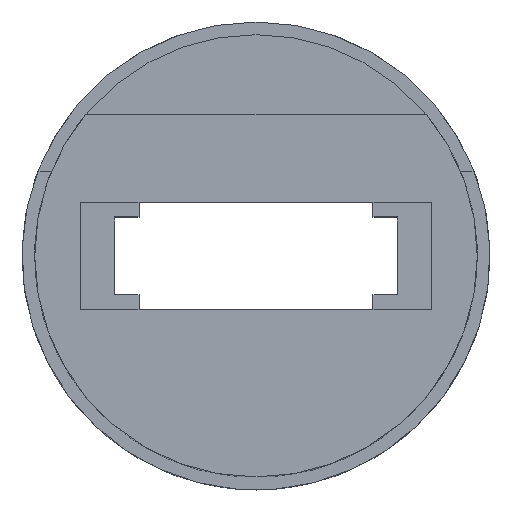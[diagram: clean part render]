
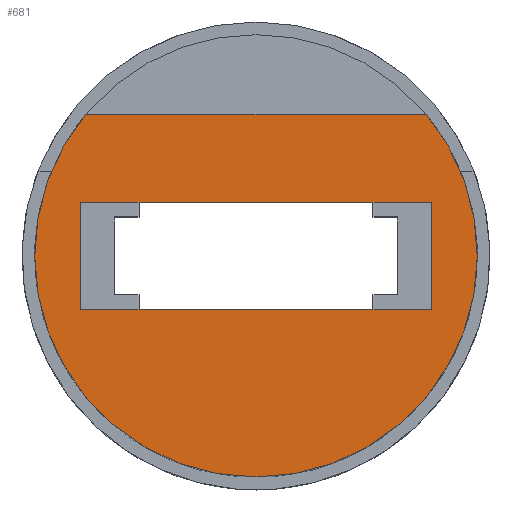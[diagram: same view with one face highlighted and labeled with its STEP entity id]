
A CAD part, top view. The second image highlights one B-rep face of the part: STEP entity #681.
In plain terms, the highlighted planar face has unit normal (0, 0, 1).
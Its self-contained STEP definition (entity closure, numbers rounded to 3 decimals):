
#281 = VERTEX_POINT('',#282);
#282 = CARTESIAN_POINT('',(8.734,7.249,10.));
#290 = EDGE_CURVE('',#281,#291,#293,.T.);
#291 = VERTEX_POINT('',#292);
#292 = CARTESIAN_POINT('',(-8.734,7.249,10.));
#293 = CIRCLE('',#294,11.35);
#294 = AXIS2_PLACEMENT_3D('',#295,#296,#297);
#295 = CARTESIAN_POINT('',(0.,0.,10.));
#296 = DIRECTION('',(0.,0.,-1.));
#297 = DIRECTION('',(0.,1.,0.));
#659 = EDGE_CURVE('',#281,#291,#660,.T.);
#660 = LINE('',#661,#662);
#661 = CARTESIAN_POINT('',(38.446,7.249,10.));
#662 = VECTOR('',#663,1.);
#663 = DIRECTION('',(-1.,0.,0.));
#681 = ADVANCED_FACE('',(#682,#686),#752,.F.);
#682 = FACE_BOUND('',#683,.T.);
#683 = EDGE_LOOP('',(#684,#685));
#684 = ORIENTED_EDGE('',*,*,#290,.F.);
#685 = ORIENTED_EDGE('',*,*,#659,.T.);
#686 = FACE_BOUND('',#687,.T.);
#687 = EDGE_LOOP('',(#688,#698,#706,#714,#722,#730,#738,#746));
#688 = ORIENTED_EDGE('',*,*,#689,.F.);
#689 = EDGE_CURVE('',#690,#692,#694,.T.);
#690 = VERTEX_POINT('',#691);
#691 = CARTESIAN_POINT('',(-6.,-2.75,10.));
#692 = VERTEX_POINT('',#693);
#693 = CARTESIAN_POINT('',(6.,-2.75,10.));
#694 = LINE('',#695,#696);
#695 = CARTESIAN_POINT('',(3.,-2.75,10.));
#696 = VECTOR('',#697,1.);
#697 = DIRECTION('',(1.,0.,0.));
#698 = ORIENTED_EDGE('',*,*,#699,.T.);
#699 = EDGE_CURVE('',#690,#700,#702,.T.);
#700 = VERTEX_POINT('',#701);
#701 = CARTESIAN_POINT('',(-9.,-2.75,10.));
#702 = LINE('',#703,#704);
#703 = CARTESIAN_POINT('',(-4.5,-2.75,10.));
#704 = VECTOR('',#705,1.);
#705 = DIRECTION('',(-1.,0.,0.));
#706 = ORIENTED_EDGE('',*,*,#707,.T.);
#707 = EDGE_CURVE('',#700,#708,#710,.T.);
#708 = VERTEX_POINT('',#709);
#709 = CARTESIAN_POINT('',(-9.,2.75,10.));
#710 = LINE('',#711,#712);
#711 = CARTESIAN_POINT('',(-9.,1.375,10.));
#712 = VECTOR('',#713,1.);
#713 = DIRECTION('',(0.,1.,0.));
#714 = ORIENTED_EDGE('',*,*,#715,.T.);
#715 = EDGE_CURVE('',#708,#716,#718,.T.);
#716 = VERTEX_POINT('',#717);
#717 = CARTESIAN_POINT('',(-6.,2.75,10.));
#718 = LINE('',#719,#720);
#719 = CARTESIAN_POINT('',(4.5,2.75,10.));
#720 = VECTOR('',#721,1.);
#721 = DIRECTION('',(1.,0.,0.));
#722 = ORIENTED_EDGE('',*,*,#723,.F.);
#723 = EDGE_CURVE('',#724,#716,#726,.T.);
#724 = VERTEX_POINT('',#725);
#725 = CARTESIAN_POINT('',(6.,2.75,10.));
#726 = LINE('',#727,#728);
#727 = CARTESIAN_POINT('',(-3.,2.75,10.));
#728 = VECTOR('',#729,1.);
#729 = DIRECTION('',(-1.,0.,0.));
#730 = ORIENTED_EDGE('',*,*,#731,.T.);
#731 = EDGE_CURVE('',#724,#732,#734,.T.);
#732 = VERTEX_POINT('',#733);
#733 = CARTESIAN_POINT('',(9.,2.75,10.));
#734 = LINE('',#735,#736);
#735 = CARTESIAN_POINT('',(4.5,2.75,10.));
#736 = VECTOR('',#737,1.);
#737 = DIRECTION('',(1.,0.,0.));
#738 = ORIENTED_EDGE('',*,*,#739,.T.);
#739 = EDGE_CURVE('',#732,#740,#742,.T.);
#740 = VERTEX_POINT('',#741);
#741 = CARTESIAN_POINT('',(9.,-2.75,10.));
#742 = LINE('',#743,#744);
#743 = CARTESIAN_POINT('',(9.,-1.375,10.));
#744 = VECTOR('',#745,1.);
#745 = DIRECTION('',(0.,-1.,0.));
#746 = ORIENTED_EDGE('',*,*,#747,.T.);
#747 = EDGE_CURVE('',#740,#692,#748,.T.);
#748 = LINE('',#749,#750);
#749 = CARTESIAN_POINT('',(-4.5,-2.75,10.));
#750 = VECTOR('',#751,1.);
#751 = DIRECTION('',(-1.,0.,0.));
#752 = PLANE('',#753);
#753 = AXIS2_PLACEMENT_3D('',#754,#755,#756);
#754 = CARTESIAN_POINT('',(0.,0.,10.));
#755 = DIRECTION('',(0.,0.,-1.));
#756 = DIRECTION('',(0.,1.,0.));
